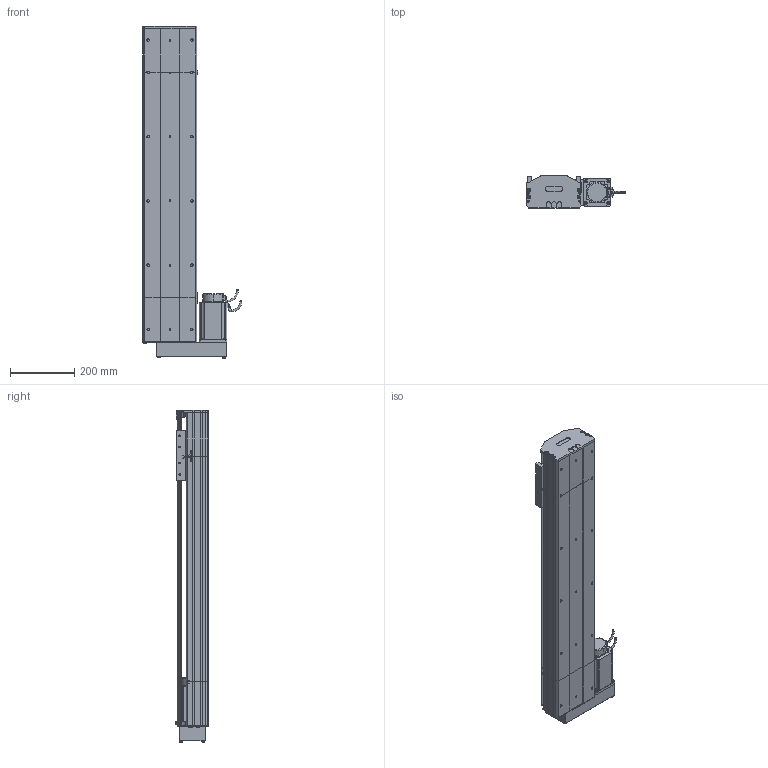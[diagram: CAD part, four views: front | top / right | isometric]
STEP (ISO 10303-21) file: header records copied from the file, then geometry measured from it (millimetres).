
FILE_DESCRIPTION (( 'STEP AP214' ), '1' );
FILE_NAME ('D17 TSH BL S700.STEP', '2010-06-30T06:40:50', ( 'Christophe Gaillard' ), ( 'SGA' ), 'SwSTEP 2.0', 'SolidWorks 2010', '' );
FILE_SCHEMA (( 'AUTOMOTIVE_DESIGN' ));
Length unit declared in the file: millimetre
Products named in the file (33): guide D17; Chariot D17; chariot D17S_Default; Cvis M5 L70_Default; head BL_Default; Conecteur2_Default; codeur 90BLDC125-640; vis M5 L12_Default; corps 90BLDC125A-640; renvoi BL_Default; Vis M5 L16-2_Default; Conecteur_Default; avant 90BLDC125A-640; Moteur motionking 90BLDC125A-640; vis M5 L5_Default; Arbre+rail head D17; plaque de  bout BM head D17_Default; couvercle D17 head_Default; corpl head D17 BM_Default; D17 TSH BL S700; course 700 D17_Default; couvercle D17 course L700_Default; corp D17 700_Default; arbre + rail D17 Course 700 ; plaque de  bout tail D17_Default; corpl tail D17+L100_Default; Tail D17+L100_Default; Arbre+rail tail D17; tete d''axe haut D17; tete d''axe bas D17; vis M5 L25_Default; vis M5 L8 90°_Default; couvercle D17_Default
Assembly tree (55 placements, depth 4):
  D17 TSH BL S700
    course 700 D17_Default
      couvercle D17 course L700_Default
      corp D17 700_Default
      arbre + rail D17 Course 700 
    Tail D17+L100_Default
      vis M5 L25_Default  x2
      tete d''axe haut D17
      vis M5 L8 90°_Default  x2
      couvercle D17_Default
      Arbre+rail tail D17
      corpl tail D17+L100_Default
      vis M5 L12_Default  x4
      tete d''axe bas D17
      plaque de  bout tail D17_Default
    chariot D17S_Default
      vis M5 L12_Default  x4
      guide D17  x2
      Chariot D17
    head BL_Default
      Vis M5 L16-2_Default  x4
      Cvis M5 L70_Default  x2
      vis M5 L5_Default  x2
      vis M5 L12_Default  x8
      Moteur motionking 90BLDC125A-640
        avant 90BLDC125A-640
        codeur 90BLDC125-640
        Conecteur_Default
        Conecteur2_Default
        corps 90BLDC125A-640
      Arbre+rail head D17
      renvoi BL_Default
      plaque de  bout BM head D17_Default
      corpl head D17 BM_Default
      couvercle D17 head_Default
Bounding box: 308.95 x 99.7 x 1032.7 mm (x, y, z)
Volume: 7213678.8 mm3; surface area: 1807314.9 mm2
Topology: 80 solids, 80 shells, 2253 faces, 5664 edges, 3654 vertices
Faces by surface type: plane 1400, cylinder 576, bspline 136, torus 73, cone 64, sphere 4
Entity records: 72818 total; most frequent: CARTESIAN_POINT 22711, ORIENTED_EDGE 8836, DIRECTION 8275, EDGE_CURVE 4418, LINE 3067, VECTOR 3067, VERTEX_POINT 2900, AXIS2_PLACEMENT_3D 2604
